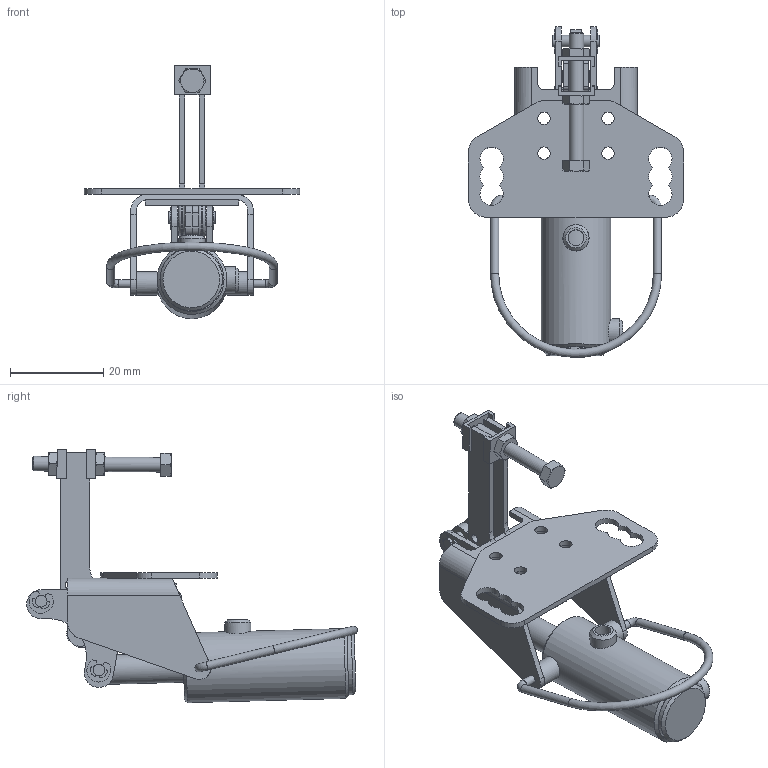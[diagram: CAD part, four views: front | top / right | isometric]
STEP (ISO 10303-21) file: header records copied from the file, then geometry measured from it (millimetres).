
FILE_DESCRIPTION((' '),'2;1');
FILE_NAME('C:\Users\Nick\Desktop\AOV-201-FM\3D\AOV-201-FM.stp','2015-05-22T13:58:47',(' '),(' '),' ','ACIS',' ');
FILE_SCHEMA(('CONFIG_CONTROL_DESIGN'));
Length unit declared in the file: inch
Products named in the file (35): C:\Users\Nick\Desktop\AOV-201-FM\3D\AOV-201-FM.stp; Body1; Body2; Body3; Body4; Body5; Body6; Body7; Body8; Body9; Body10; Body11; Body12; Body13; Body14; Body15; Body16; Body17; Body18; Body19; Body20; Body21; Body22; Body23; Body24; Body25; Body26; Body27; Body28; Body29; Body30; Body31; Body32; Body33; Body34
Assembly tree (34 placements, depth 2):
  C:\Users\Nick\Desktop\AOV-201-FM\3D\AOV-201-FM.stp
    Body1
    Body2
    Body3
    Body4
    Body5
    Body6
    Body7
    Body8
    Body9
    Body10
    Body11
    Body12
    Body13
    Body14
    Body15
    Body16
    Body17
    Body18
    Body19
    Body20
    Body21
    Body22
    Body23
    Body24
    Body25
    Body26
    Body27
    Body28
    Body29
    Body30
    Body31
    Body32
    Body33
    Body34
Bounding box: 46.25 x 71.04 x 54.43 mm (x, y, z)
Volume: 9839.4 mm3; surface area: 16230 mm2
Topology: 34 solids, 34 shells, 464 faces, 1134 edges, 745 vertices
Faces by surface type: plane 226, cylinder 188, cone 40, torus 9, bspline 1
Full cylindrical faces by diameter (mm): 1.565 x1, 1.77 x4, 1.84 x1, 1.87 x8, 1.875 x6, 1.88 x2, 2.187 x2, 2.5 x3, 2.52 x2, 2.66 x14, 3.125 x1, 3.28 x2, 3.43 x4, 4.375 x1, 5 x2, 5.625 x3, 6.25 x2, 13.125 x1, 13.4 x1, 15 x1
Entity records: 18850 total; most frequent: CARTESIAN_POINT 3063, DIRECTION 2404, ORIENTED_EDGE 2060, EDGE_CURVE 1030, AXIS2_PLACEMENT_3D 938, VERTEX_POINT 719, EDGE_LOOP 625, VECTOR 528
